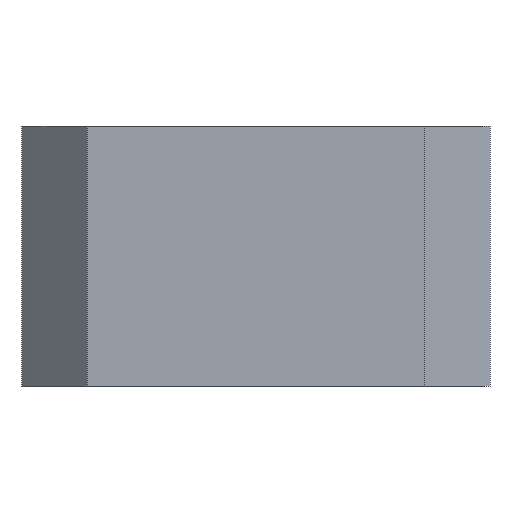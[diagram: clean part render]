
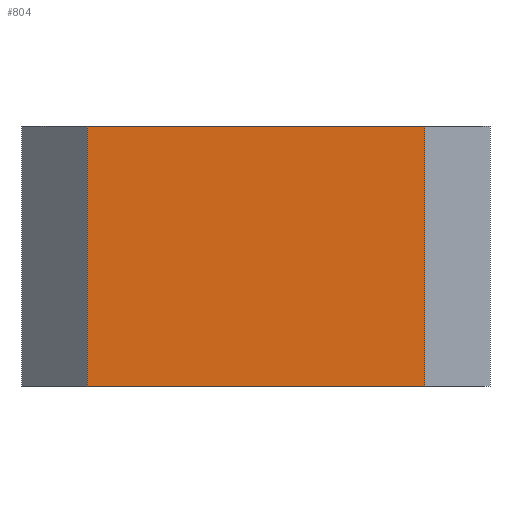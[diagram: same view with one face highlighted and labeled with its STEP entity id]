
A CAD part, left-side view. The second image highlights one B-rep face of the part: STEP entity #804.
In plain terms, the highlighted planar face has unit normal (-1, 0, 0).
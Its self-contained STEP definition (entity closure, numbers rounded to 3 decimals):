
#29 = EDGE_CURVE ( 'NONE', #140, #503, #331, .T. ) ;
#54 = DIRECTION ( 'NONE',  ( 0., -1., 0. ) ) ;
#98 = VECTOR ( 'NONE', #369, 1000. ) ;
#116 = LINE ( 'NONE', #571, #558 ) ;
#128 = ORIENTED_EDGE ( 'NONE', *, *, #639, .T. ) ;
#129 = CARTESIAN_POINT ( 'NONE',  ( -59., -26., 50. ) ) ;
#140 = VERTEX_POINT ( 'NONE', #505 ) ;
#185 = CARTESIAN_POINT ( 'NONE',  ( -59., -36., 50. ) ) ;
#236 = DIRECTION ( 'NONE',  ( 0., 0., -1. ) ) ;
#240 = LINE ( 'NONE', #496, #98 ) ;
#282 = VERTEX_POINT ( 'NONE', #359 ) ;
#301 = ORIENTED_EDGE ( 'NONE', *, *, #699, .T. ) ;
#325 = DIRECTION ( 'NONE',  ( 0., 0., -1. ) ) ;
#331 = LINE ( 'NONE', #185, #771 ) ;
#359 = CARTESIAN_POINT ( 'NONE',  ( -59., 26., 10. ) ) ;
#369 = DIRECTION ( 'NONE',  ( 0., 0., 1. ) ) ;
#462 = VERTEX_POINT ( 'NONE', #652 ) ;
#475 = VECTOR ( 'NONE', #54, 1000. ) ;
#496 = CARTESIAN_POINT ( 'NONE',  ( -59., -26., 50. ) ) ;
#503 = VERTEX_POINT ( 'NONE', #129 ) ;
#505 = CARTESIAN_POINT ( 'NONE',  ( -59., 26., 50. ) ) ;
#520 = FACE_OUTER_BOUND ( 'NONE', #806, .T. ) ;
#558 = VECTOR ( 'NONE', #236, 1000. ) ;
#571 = CARTESIAN_POINT ( 'NONE',  ( -59., 26., 50. ) ) ;
#622 = CARTESIAN_POINT ( 'NONE',  ( -59., -36., 10. ) ) ;
#639 = EDGE_CURVE ( 'NONE', #282, #462, #818, .T. ) ;
#652 = CARTESIAN_POINT ( 'NONE',  ( -59., -26., 10. ) ) ;
#662 = ORIENTED_EDGE ( 'NONE', *, *, #703, .T. ) ;
#699 = EDGE_CURVE ( 'NONE', #140, #282, #116, .T. ) ;
#703 = EDGE_CURVE ( 'NONE', #462, #503, #240, .T. ) ;
#708 = CARTESIAN_POINT ( 'NONE',  ( -59., -36., 50. ) ) ;
#771 = VECTOR ( 'NONE', #831, 1000. ) ;
#774 = DIRECTION ( 'NONE',  ( 1., 0., 0. ) ) ;
#779 = PLANE ( 'NONE',  #788 ) ;
#780 = ORIENTED_EDGE ( 'NONE', *, *, #29, .F. ) ;
#788 = AXIS2_PLACEMENT_3D ( 'NONE', #708, #774, #325 ) ;
#804 = ADVANCED_FACE ( 'NONE', ( #520 ), #779, .F. ) ;
#806 = EDGE_LOOP ( 'NONE', ( #128, #662, #780, #301 ) ) ;
#818 = LINE ( 'NONE', #622, #475 ) ;
#831 = DIRECTION ( 'NONE',  ( 0., -1., 0. ) ) ;
